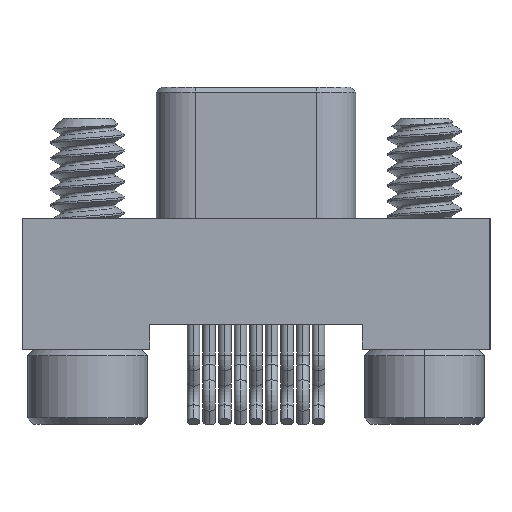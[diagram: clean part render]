
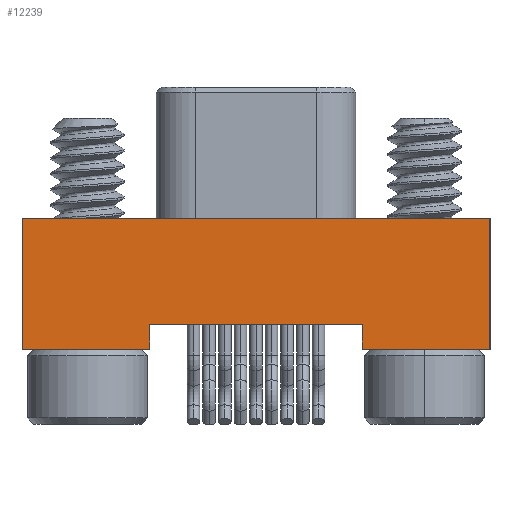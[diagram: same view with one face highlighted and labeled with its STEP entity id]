
A CAD part, front view. The second image highlights one B-rep face of the part: STEP entity #12239.
In plain terms, the highlighted planar face has unit normal (0, -1, 0).
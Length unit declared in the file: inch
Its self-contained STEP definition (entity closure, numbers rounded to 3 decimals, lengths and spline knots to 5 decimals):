
#120 = CARTESIAN_POINT ( 'NONE',  ( -0.1875, -0.0575, 0. ) ) ;
#222 = EDGE_CURVE ( 'NONE', #2095, #10005, #13320, .T. ) ;
#254 = DIRECTION ( 'NONE',  ( 0., 0., -1. ) ) ;
#703 = VECTOR ( 'NONE', #14613, 39.37008 ) ;
#708 = VERTEX_POINT ( 'NONE', #976 ) ;
#720 = LINE ( 'NONE', #10182, #13251 ) ;
#976 = CARTESIAN_POINT ( 'NONE',  ( 0.085, -0.0575, -0.105 ) ) ;
#1269 = CARTESIAN_POINT ( 'NONE',  ( -0.085, -0.0575, -0.085 ) ) ;
#1449 = CARTESIAN_POINT ( 'NONE',  ( 0.085, -0.0575, -0.085 ) ) ;
#1789 = ORIENTED_EDGE ( 'NONE', *, *, #6792, .T. ) ;
#1913 = DIRECTION ( 'NONE',  ( 0., 0., 1. ) ) ;
#2095 = VERTEX_POINT ( 'NONE', #15766 ) ;
#2117 = ORIENTED_EDGE ( 'NONE', *, *, #10176, .T. ) ;
#2543 = LINE ( 'NONE', #8994, #5765 ) ;
#2928 = EDGE_CURVE ( 'NONE', #4719, #3644, #720, .T. ) ;
#3506 = EDGE_CURVE ( 'NONE', #15308, #3644, #4661, .T. ) ;
#3644 = VERTEX_POINT ( 'NONE', #8436 ) ;
#3875 = CARTESIAN_POINT ( 'NONE',  ( -0.1875, -0.0575, -0.105 ) ) ;
#3892 = CARTESIAN_POINT ( 'NONE',  ( -0.1875, -0.0575, 0.105 ) ) ;
#3927 = LINE ( 'NONE', #4578, #10420 ) ;
#4425 = VECTOR ( 'NONE', #14800, 39.37008 ) ;
#4578 = CARTESIAN_POINT ( 'NONE',  ( 0.1875, -0.0575, 0.105 ) ) ;
#4661 = LINE ( 'NONE', #1269, #703 ) ;
#4719 = VERTEX_POINT ( 'NONE', #8709 ) ;
#5042 = FACE_OUTER_BOUND ( 'NONE', #12536, .T. ) ;
#5765 = VECTOR ( 'NONE', #11421, 39.37008 ) ;
#5942 = ORIENTED_EDGE ( 'NONE', *, *, #8069, .F. ) ;
#6483 = VECTOR ( 'NONE', #15623, 39.37008 ) ;
#6617 = DIRECTION ( 'NONE',  ( 1., 0., 0. ) ) ;
#6740 = PLANE ( 'NONE',  #8393 ) ;
#6792 = EDGE_CURVE ( 'NONE', #2095, #4719, #11574, .T. ) ;
#7036 = ORIENTED_EDGE ( 'NONE', *, *, #10225, .F. ) ;
#7700 = CARTESIAN_POINT ( 'NONE',  ( 0.085, -0.0575, -0.085 ) ) ;
#8069 = EDGE_CURVE ( 'NONE', #10005, #9803, #3927, .T. ) ;
#8393 = AXIS2_PLACEMENT_3D ( 'NONE', #15273, #9188, #1913 ) ;
#8436 = CARTESIAN_POINT ( 'NONE',  ( -0.085, -0.0575, -0.105 ) ) ;
#8709 = CARTESIAN_POINT ( 'NONE',  ( -0.1875, -0.0575, -0.105 ) ) ;
#8994 = CARTESIAN_POINT ( 'NONE',  ( 0.085, -0.0575, -0.085 ) ) ;
#9155 = ORIENTED_EDGE ( 'NONE', *, *, #222, .F. ) ;
#9188 = DIRECTION ( 'NONE',  ( 0., 1., 0. ) ) ;
#9391 = LINE ( 'NONE', #7700, #12610 ) ;
#9803 = VERTEX_POINT ( 'NONE', #14760 ) ;
#10005 = VERTEX_POINT ( 'NONE', #12615 ) ;
#10059 = EDGE_CURVE ( 'NONE', #708, #9803, #10549, .T. ) ;
#10176 = EDGE_CURVE ( 'NONE', #14831, #708, #9391, .T. ) ;
#10182 = CARTESIAN_POINT ( 'NONE',  ( -0.1875, -0.0575, -0.105 ) ) ;
#10225 = EDGE_CURVE ( 'NONE', #14831, #15308, #2543, .T. ) ;
#10420 = VECTOR ( 'NONE', #11869, 39.37008 ) ;
#10549 = LINE ( 'NONE', #3875, #4425 ) ;
#11180 = CARTESIAN_POINT ( 'NONE',  ( -0.085, -0.0575, -0.085 ) ) ;
#11421 = DIRECTION ( 'NONE',  ( -1., 0., 0. ) ) ;
#11574 = LINE ( 'NONE', #3892, #15214 ) ;
#11700 = ORIENTED_EDGE ( 'NONE', *, *, #2928, .T. ) ;
#11869 = DIRECTION ( 'NONE',  ( 0., 0., -1. ) ) ;
#12239 = ADVANCED_FACE ( 'NONE', ( #5042 ), #6740, .F. ) ;
#12536 = EDGE_LOOP ( 'NONE', ( #7036, #2117, #13859, #5942, #9155, #1789, #11700, #13761 ) ) ;
#12545 = DIRECTION ( 'NONE',  ( 0., 0., -1. ) ) ;
#12610 = VECTOR ( 'NONE', #12545, 39.37008 ) ;
#12615 = CARTESIAN_POINT ( 'NONE',  ( 0.1875, -0.0575, 0. ) ) ;
#13251 = VECTOR ( 'NONE', #6617, 39.37008 ) ;
#13320 = LINE ( 'NONE', #120, #6483 ) ;
#13761 = ORIENTED_EDGE ( 'NONE', *, *, #3506, .F. ) ;
#13859 = ORIENTED_EDGE ( 'NONE', *, *, #10059, .T. ) ;
#14613 = DIRECTION ( 'NONE',  ( 0., 0., -1. ) ) ;
#14760 = CARTESIAN_POINT ( 'NONE',  ( 0.1875, -0.0575, -0.105 ) ) ;
#14800 = DIRECTION ( 'NONE',  ( 1., 0., 0. ) ) ;
#14831 = VERTEX_POINT ( 'NONE', #1449 ) ;
#15214 = VECTOR ( 'NONE', #254, 39.37008 ) ;
#15273 = CARTESIAN_POINT ( 'NONE',  ( -0.1875, -0.0575, 0.105 ) ) ;
#15308 = VERTEX_POINT ( 'NONE', #11180 ) ;
#15623 = DIRECTION ( 'NONE',  ( 1., 0., 0. ) ) ;
#15766 = CARTESIAN_POINT ( 'NONE',  ( -0.1875, -0.0575, 0. ) ) ;
